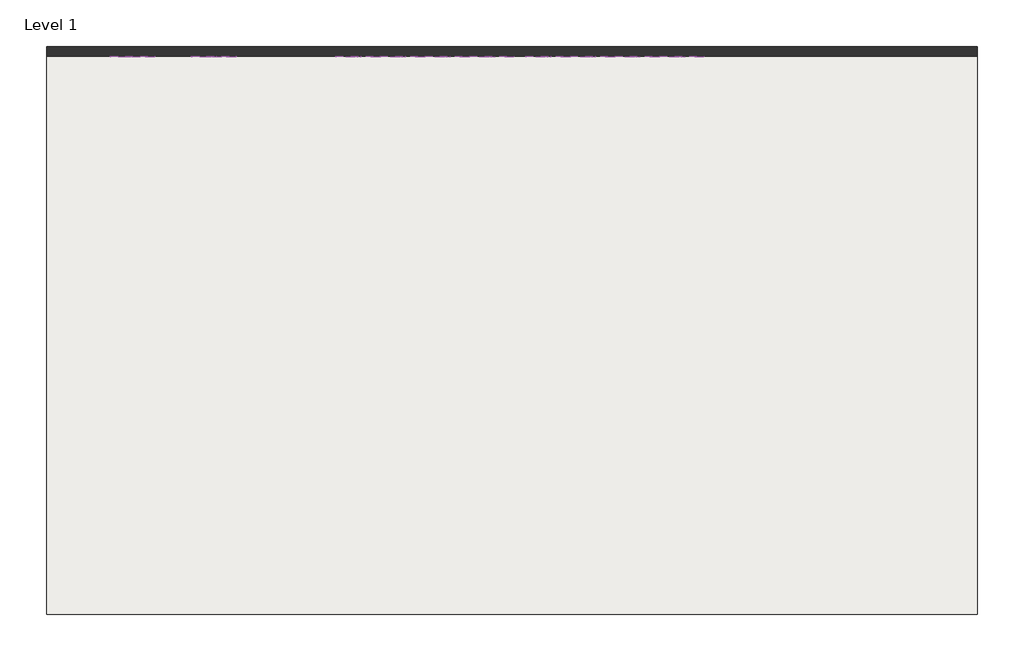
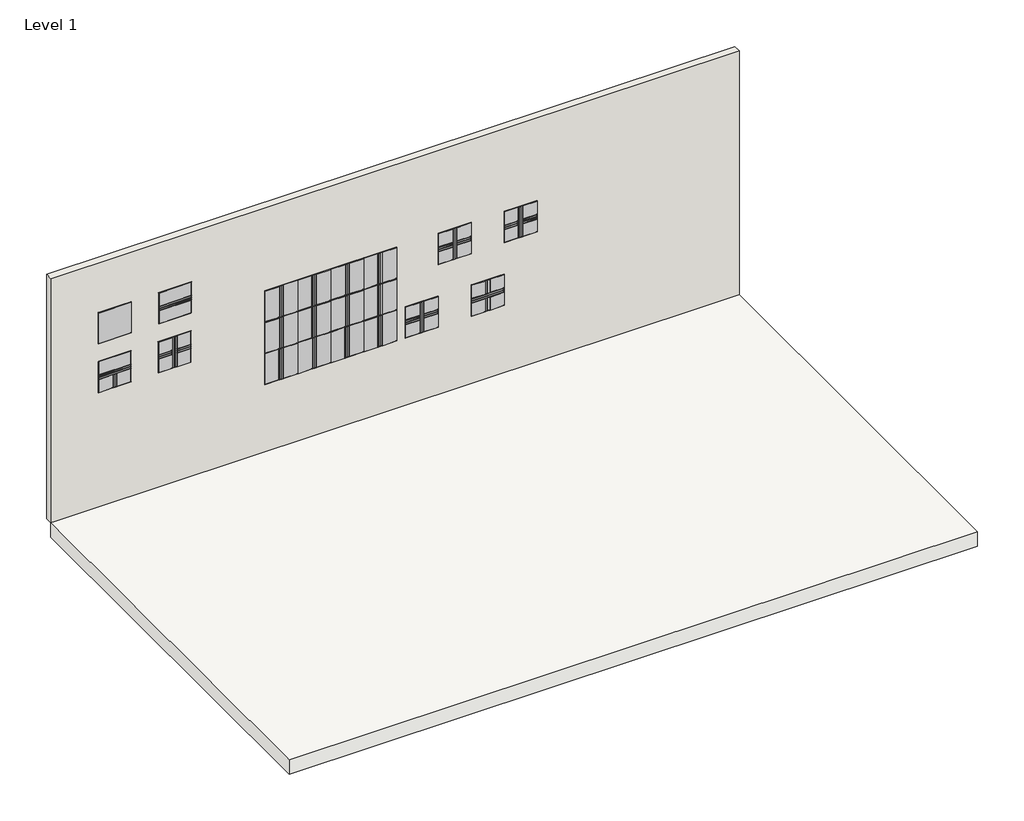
# One storey, incomplete: 20 proxies, 1 slab, 1 wall.
"""IFC4 building model written with IfcOpenShell, lengths in millimetres."""

import ifcopenshell
import ifcopenshell.guid

model = None  # the IFC model being written
_history = None  # IfcOwnerHistory: only IFC2X3 demands one
_inside = {}  # id of a spatial element -> (the spatial element, [elements in it])
_under = {}  # id of a project, library or spatial element -> (it, [spatial elements below it])
_declared = {}  # id of a project -> (the project, [libraries it declares])
_typed = {}  # id of a type object -> (the type object, [elements of that type])
_made_of = {}  # id of a material, layer set ... -> (it, [elements and type objects made of it])


def new_model(schema):
    """Start an empty IFC model of exactly this schema.

    Asked for "IFC4X3", IfcOpenShell would pick the latest addendum, in which some entities
    have other attributes; the version numbers below select the first issue.
    IFC2X3 requires an IfcOwnerHistory on every rooted entity: one is made here for all.
    """
    global model, _history
    if schema == "IFC4X3":
        model = ifcopenshell.file(schema_version=(4, 3, 0, 0))
    else:
        model = ifcopenshell.file(schema=schema)
    _inside.clear()
    _under.clear()
    _declared.clear()
    _typed.clear()
    _made_of.clear()
    _history = None
    if model.schema == "IFC2X3":
        org = make("IfcOrganization", Name="unknown")
        user = make(
            "IfcPersonAndOrganization",
            ThePerson=make("IfcPerson", FamilyName="unknown"),
            TheOrganization=org,
        )
        app = make(
            "IfcApplication",
            ApplicationDeveloper=org,
            Version="unknown",
            ApplicationFullName="unknown",
            ApplicationIdentifier="unknown",
        )
        _history = make(
            "IfcOwnerHistory",
            OwningUser=user,
            OwningApplication=app,
            ChangeAction="ADDED",
            CreationDate=0,
        )
    return model


def make(cls, **values):
    """One entity of the class cls with the attributes given. An attribute that is None is left unset."""
    return model.create_entity(
        cls, **{name: value for name, value in values.items() if value is not None}
    )


def rooted(cls, **values):
    """An entity with a GlobalId (a new one), such as an element, a storey or a relation."""
    return make(cls, GlobalId=ifcopenshell.guid.new(), OwnerHistory=_history, **values)


def si_unit(unit_type, name, prefix=None):
    """IfcSIUnit, for example si_unit("LENGTHUNIT", "METRE", prefix="MILLI")."""
    return make("IfcSIUnit", UnitType=unit_type, Prefix=prefix, Name=name)


def assignment(units):
    """IfcUnitAssignment: the units of a project."""
    return None if units is None else make("IfcUnitAssignment", Units=units)


def point(xyz):
    """IfcCartesianPoint."""
    return None if xyz is None else make("IfcCartesianPoint", Coordinates=xyz)


def direction(xyz):
    """IfcDirection."""
    return None if xyz is None else make("IfcDirection", DirectionRatios=xyz)


def frame(location, z_axis=None, x_axis=None):
    """IfcAxis2Placement3D, a coordinate frame: its origin and axes. An axis left out is left unset."""
    return make(
        "IfcAxis2Placement3D",
        Location=point(location),
        Axis=direction(z_axis),
        RefDirection=direction(x_axis),
    )


def origin():
    """The frame at (0, 0, 0) with its axes left unset."""
    return frame((0.0, 0.0, 0.0))


def origin_with_axes():
    """The frame at (0, 0, 0) with the z axis (0, 0, 1) and the x axis (1, 0, 0) written out."""
    return frame((0.0, 0.0, 0.0), z_axis=(0.0, 0.0, 1.0), x_axis=(1.0, 0.0, 0.0))


def place(relative_to, where):
    """IfcLocalPlacement: puts the frame where relative to a parent placement (None: the world)."""
    return make(
        "IfcLocalPlacement", PlacementRelTo=relative_to, RelativePlacement=where
    )


def context(
    kind, dimensions, precision=None, world=None, true_north=None, identifier=None
):
    """IfcGeometricRepresentationContext, for example the 3D "Model" context."""
    return make(
        "IfcGeometricRepresentationContext",
        ContextIdentifier=identifier,
        ContextType=kind,
        CoordinateSpaceDimension=dimensions,
        Precision=precision,
        WorldCoordinateSystem=world,
        TrueNorth=true_north,
    )


def project(units=None, contexts=None):
    """IfcProject with its units and contexts."""
    return rooted(
        "IfcProject",
        Name="project",
        RepresentationContexts=contexts,
        UnitsInContext=assignment(units),
    )


def spatial(cls, under=None, at=None, **own):
    """A site, building, storey or space (cls), placed at a placement, below another one or the project."""
    s = rooted(cls, ObjectPlacement=at, **own)
    if under is not None:
        _under.setdefault(under.id(), (under, []))[1].append(s)
    return s


def polyline(points):
    """IfcPolyline through the points."""
    return make("IfcPolyline", Points=[point(p) for p in points])


def outline(outer, holes=None, kind="AREA"):
    """IfcArbitraryClosedProfileDef: a profile drawn as a closed curve; with holes, ...WithVoids."""
    if holes is None:
        return make("IfcArbitraryClosedProfileDef", ProfileType=kind, OuterCurve=outer)
    return make(
        "IfcArbitraryProfileDefWithVoids",
        ProfileType=kind,
        OuterCurve=outer,
        InnerCurves=holes,
    )


def extrude(swept, where, along, depth):
    """IfcExtrudedAreaSolid: the profile swept, set in the frame where, extruded along a direction by depth."""
    return make(
        "IfcExtrudedAreaSolid",
        SweptArea=swept,
        Position=where,
        ExtrudedDirection=direction(along),
        Depth=depth,
    )


def faces_of(points, faces, orient=None, outer=None):
    """IfcFace entities. A face is a list of loops; a loop is a list of indices into points, from 0.

    orient and outer hold one flag for each loop. By default every Orientation is true, the
    first loop of a face is its IfcFaceOuterBound and the others are IfcFaceBound.
    """
    made = []
    for i, loops in enumerate(faces):
        bounds = []
        for j, loop in enumerate(loops):
            is_outer = j == 0 if outer is None else outer[i][j]
            bounds.append(
                make(
                    "IfcFaceOuterBound" if is_outer else "IfcFaceBound",
                    Bound=make("IfcPolyLoop", Polygon=[points[k] for k in loop]),
                    Orientation=True if orient is None else orient[i][j],
                )
            )
        made.append(make("IfcFace", Bounds=bounds))
    return made


def faceted_brep(points, faces, orient=None, outer=None, voids=None):
    """IfcFacetedBrep: a solid bounded by flat faces; with voids (closed shells), ...WithVoids."""
    shared = [point(p) for p in points]
    hull = make("IfcClosedShell", CfsFaces=faces_of(shared, faces, orient, outer))
    if voids is None:
        return make("IfcFacetedBrep", Outer=hull)
    return make(
        "IfcFacetedBrepWithVoids",
        Outer=hull,
        Voids=[
            make(cls, CfsFaces=faces_of(shared, fs, o, b)) for cls, fs, o, b in voids
        ],
    )


def shape(context_of_items, identifier, shape_type, items):
    """IfcShapeRepresentation: the items that make up one representation, for example the "Body"."""
    return make(
        "IfcShapeRepresentation",
        ContextOfItems=context_of_items,
        RepresentationIdentifier=identifier,
        RepresentationType=shape_type,
        Items=items,
    )


def source(mapping_origin, context_of_items, identifier, shape_type, items):
    """IfcRepresentationMap: a shape defined once, which mapped items show again and again."""
    return make(
        "IfcRepresentationMap",
        MappingOrigin=mapping_origin,
        MappedRepresentation=shape(context_of_items, identifier, shape_type, items),
    )


def transform(
    local_origin,
    x_axis=None,
    y_axis=None,
    z_axis=None,
    scale=None,
    scale2=None,
    scale3=None,
    uniform=True,
):
    """IfcCartesianTransformationOperator3D, or its non-uniform kind. x_axis, y_axis, z_axis: its Axis1, 2, 3."""
    if uniform:
        return make(
            "IfcCartesianTransformationOperator3D",
            Axis1=direction(x_axis),
            Axis2=direction(y_axis),
            LocalOrigin=point(local_origin),
            Scale=scale,
            Axis3=direction(z_axis),
        )
    return make(
        "IfcCartesianTransformationOperator3DnonUniform",
        Axis1=direction(x_axis),
        Axis2=direction(y_axis),
        LocalOrigin=point(local_origin),
        Scale=scale,
        Axis3=direction(z_axis),
        Scale2=scale2,
        Scale3=scale3,
    )


def mapped(mapping_source, mapping_target):
    """IfcMappedItem: shows the shape of a source again, moved by a transform."""
    return make(
        "IfcMappedItem", MappingSource=mapping_source, MappingTarget=mapping_target
    )


def made_of(thing, what):
    """Note that an element or type object is made of a material, layer set ...; save() writes the relation."""
    if what is not None:
        _made_of.setdefault(what.id(), (what, []))[1].append(thing)
    return thing


def element(
    cls,
    number,
    at=None,
    inside=None,
    cuts=None,
    type_object=None,
    material=None,
    context=None,
    identifier="Body",
    shape_type=None,
    held_by="IfcProductDefinitionShape",
    body=None,
    shapes=None,
    **own,
):
    """One element of the class cls, such as IfcWall. Its Tag is "e" and its number.

    at: its placement. inside: the storey or other place that contains it. cuts: it is an
    opening in that element (IfcRelVoidsElement). A single representation is given by context,
    identifier, shape_type and body (its items); several are given by shapes. held_by: the class
    of the entity that holds the representations. save() writes the other relations.
    """
    e = rooted(cls, Tag="e%d" % number, ObjectPlacement=at, **own)
    if body is not None:
        shapes = [shape(context, identifier, shape_type, body)]
    if shapes is not None:
        e.Representation = make(held_by, Representations=shapes)
    if inside is not None:
        _inside.setdefault(inside.id(), (inside, []))[1].append(e)
    if cuts is not None:
        rooted(
            "IfcRelVoidsElement", RelatingBuildingElement=cuts, RelatedOpeningElement=e
        )
    if type_object is not None:
        _typed.setdefault(type_object.id(), (type_object, []))[1].append(e)
    return made_of(e, material)


def aggregate(whole, parts):
    """IfcRelAggregates: a whole, such as a stair, and the parts it consists of."""
    return rooted("IfcRelAggregates", RelatingObject=whole, RelatedObjects=parts)


def save(model, path):
    """Write the relations noted so far, then the file.

    IfcRelAggregates (storeys below a building ...), IfcRelContainedInSpatialStructure (elements
    in a storey), IfcRelDefinesByType, IfcRelAssociatesMaterial and IfcRelDeclares: one each for
    every whole, place, type object, material and project.
    """
    for whole, parts in _under.values():
        aggregate(whole, parts)
    for where, things in _inside.values():
        rooted(
            "IfcRelContainedInSpatialStructure",
            RelatedElements=things,
            RelatingStructure=where,
        )
    for kind, things in _typed.values():
        rooted("IfcRelDefinesByType", RelatedObjects=things, RelatingType=kind)
    for what, things in _made_of.values():
        rooted("IfcRelAssociatesMaterial", RelatedObjects=things, RelatingMaterial=what)
    for by, libraries in _declared.values():
        rooted("IfcRelDeclares", RelatingContext=by, RelatedDefinitions=libraries)
    model.write(path)


def specialty_equipment_276b5d11(model_context):
    return source(origin(), model_context, "Body", "Brep", [
        faceted_brep([(-30.9054687, 44.0630399, 12.0054687), (-30.9054687, 286.5945312, 12.0054687), (-268.3890625, 286.5945312, 12.0054687), (-268.3890625, 44.0630399, 12.0054687), (-30.9054687, 5.9630399, 12.0054687), (-30.9054687, 33.0521024, 12.0054687), (-604.0945312, 33.0521024, 12.0054687), (-604.0945312, 5.9630399, 12.0054687), (-30.9054687, -286.5945313, 12.0054687), (-30.9054687, -43.1478976, 12.0054687), (-268.3890625, -43.1478976, 12.0054687), (-268.3890625, -286.5945313, 12.0054687), (-30.9054687, -32.1369601, 12.0054687), (-30.9054687, -5.0478976, 12.0054687), (-604.0945312, -5.0478976, 12.0054687), (-604.0945312, -32.1369601, 12.0054687), (-604.0945312, 286.5945312, 12.0054687), (-604.0945312, 44.0630399, 12.0054687), (-355.6, 44.0630399, 12.0054687), (-355.6, 286.5945312, 12.0054687), (-604.0945312, -43.1478976, 12.0054687), (-604.0945312, -286.5945313, 12.0054687), (-355.6, -286.5945313, 12.0054687), (-355.6, -43.1478976, 12.0054687), (-279.4, 286.5945312, 12.0054687), (-306.4890625, 286.5945312, 12.0054687), (-306.4890625, 44.0630399, 12.0054687), (-279.4, 44.0630399, 12.0054687), (-317.5, 286.5945312, 12.0054687), (-344.5890625, 286.5945312, 12.0054687), (-344.5890625, 44.0630399, 12.0054687), (-317.5, 44.0630399, 12.0054687), (-306.4890625, -286.5945313, 12.0054687), (-279.4, -286.5945313, 12.0054687), (-279.4, -43.1478976, 12.0054687), (-306.4890625, -43.1478976, 12.0054687), (-344.5890625, -286.5945313, 12.0054687), (-317.5, -286.5945313, 12.0054687), (-317.5, -43.1478976, 12.0054687), (-344.5890625, -43.1478976, 12.0054687), (-25.4, 292.1, 0.0), (-25.4, -292.1, 0.0), (-609.6, -292.1, 0.0), (-609.6, 292.1, 0.0), (-609.6, 292.1, 6.5), (-350.0945313, 292.1, 6.5), (-311.9945313, 292.1, 6.5), (-273.8945313, 292.1, 6.5), (-25.4, 292.1, 6.5), (-609.6, -292.1, 6.5), (-609.6, -37.6424289, 6.5), (-609.6, 0.4575711, 6.5), (-609.6, 38.5575711, 6.5), (-25.4, -292.1, 6.5), (-273.8945313, -292.1, 6.5), (-311.9945312, -292.1, 6.5), (-350.0945312, -292.1, 6.5), (-25.4, 38.5575711, 6.5), (-25.4, 0.4575711, 6.5), (-25.4, -37.6424289, 6.5), (-273.8945313, 44.0630399, 6.5), (-311.9945313, 44.0630399, 6.5), (-350.0945313, 44.0630399, 6.5), (-273.8945313, -43.1478976, 6.5), (-311.9945313, -43.1478976, 6.5), (-350.0945313, -43.1478976, 6.5)], [[[0, 1, 2, 3]], [[4, 5, 6, 7]], [[8, 9, 10, 11]], [[12, 13, 14, 15]], [[16, 17, 18, 19]], [[20, 21, 22, 23]], [[24, 25, 26, 27]], [[28, 29, 30, 31]], [[32, 33, 34, 35]], [[36, 37, 38, 39]], [[40, 41, 42, 43]], [[40, 43, 44, 45, 46, 47, 48]], [[43, 42, 49, 50, 51, 52, 44]], [[42, 41, 53, 54, 55, 56, 49]], [[41, 40, 48, 57, 58, 59, 53]], [[5, 4, 58, 57]], [[13, 12, 59, 58]], [[48, 1, 0, 57]], [[8, 53, 59, 9]], [[25, 24, 47, 46]], [[29, 28, 46, 45]], [[1, 48, 47, 2]], [[44, 16, 19, 45]], [[7, 6, 52, 51]], [[15, 14, 51, 50]], [[16, 44, 52, 17]], [[49, 21, 20, 50]], [[33, 32, 55, 54]], [[37, 36, 56, 55]], [[53, 8, 11, 54]], [[21, 49, 56, 22]], [[57, 52, 6, 5]], [[52, 57, 0, 3, 27, 26, 31, 30, 18, 17]], [[58, 51, 14, 13]], [[51, 58, 4, 7]], [[59, 50, 20, 23, 39, 38, 35, 34, 10, 9]], [[50, 59, 12, 15]], [[27, 60, 47, 24]], [[60, 3, 2, 47]], [[31, 61, 46, 28]], [[61, 26, 25, 46]], [[18, 62, 45, 19]], [[62, 30, 29, 45]], [[60, 27, 3]], [[61, 31, 26]], [[62, 18, 30]], [[63, 34, 33, 54]], [[10, 63, 54, 11]], [[64, 38, 37, 55]], [[35, 64, 55, 32]], [[65, 23, 22, 56]], [[39, 65, 56, 36]], [[34, 63, 10]], [[38, 64, 35]], [[23, 65, 39]]]),
    ])


def specialty_equipment_d335329e(model_context):
    return source(origin(), model_context, "Body", "Brep", [
        faceted_brep([(-30.9054687, -44.0630399, 12.0054687), (-268.3890625, -44.0630399, 12.0054687), (-268.3890625, -286.5945312, 12.0054687), (-30.9054687, -286.5945312, 12.0054687), (-30.9054687, -5.9630399, 12.0054687), (-604.0945312, -5.9630399, 12.0054687), (-604.0945312, -33.0521024, 12.0054687), (-30.9054687, -33.0521024, 12.0054687), (-30.9054687, 286.5945313, 12.0054687), (-268.3890625, 286.5945313, 12.0054687), (-268.3890625, 43.1478976, 12.0054687), (-30.9054687, 43.1478976, 12.0054687), (-30.9054687, 32.1369601, 12.0054687), (-604.0945312, 32.1369601, 12.0054687), (-604.0945312, 5.0478976, 12.0054687), (-30.9054687, 5.0478976, 12.0054687), (-604.0945312, -286.5945312, 12.0054687), (-355.6, -286.5945312, 12.0054687), (-355.6, -44.0630399, 12.0054687), (-604.0945312, -44.0630399, 12.0054687), (-604.0945312, 43.1478976, 12.0054687), (-355.6, 43.1478976, 12.0054687), (-355.6, 286.5945313, 12.0054687), (-604.0945312, 286.5945313, 12.0054687), (-279.4, -286.5945312, 12.0054687), (-279.4, -44.0630399, 12.0054687), (-306.4890625, -44.0630399, 12.0054687), (-306.4890625, -286.5945312, 12.0054687), (-317.5, -286.5945312, 12.0054687), (-317.5, -44.0630399, 12.0054687), (-344.5890625, -44.0630399, 12.0054687), (-344.5890625, -286.5945312, 12.0054687), (-306.4890625, 286.5945313, 12.0054687), (-306.4890625, 43.1478976, 12.0054687), (-279.4, 43.1478976, 12.0054687), (-279.4, 286.5945313, 12.0054687), (-344.5890625, 286.5945313, 12.0054687), (-344.5890625, 43.1478976, 12.0054687), (-317.5, 43.1478976, 12.0054687), (-317.5, 286.5945313, 12.0054687), (-25.4, -292.1, 0.0), (-609.6, -292.1, 0.0), (-609.6, 292.1, 0.0), (-25.4, 292.1, 0.0), (-25.4, -292.1, 6.5), (-273.8945313, -292.1, 6.5), (-311.9945313, -292.1, 6.5), (-350.0945313, -292.1, 6.5), (-609.6, -292.1, 6.5), (-609.6, -38.5575711, 6.5), (-609.6, -0.4575711, 6.5), (-609.6, 37.6424289, 6.5), (-609.6, 292.1, 6.5), (-350.0945312, 292.1, 6.5), (-311.9945312, 292.1, 6.5), (-273.8945313, 292.1, 6.5), (-25.4, 292.1, 6.5), (-25.4, 37.6424289, 6.5), (-25.4, -0.4575711, 6.5), (-25.4, -38.5575711, 6.5), (-273.8945313, -44.0630399, 6.5), (-311.9945313, -44.0630399, 6.5), (-350.0945313, -44.0630399, 6.5), (-273.8945313, 43.1478976, 6.5), (-311.9945313, 43.1478976, 6.5), (-350.0945313, 43.1478976, 6.5)], [[[0, 1, 2, 3]], [[4, 5, 6, 7]], [[8, 9, 10, 11]], [[12, 13, 14, 15]], [[16, 17, 18, 19]], [[20, 21, 22, 23]], [[24, 25, 26, 27]], [[28, 29, 30, 31]], [[32, 33, 34, 35]], [[36, 37, 38, 39]], [[40, 41, 42, 43]], [[40, 44, 45, 46, 47, 48, 41]], [[41, 48, 49, 50, 51, 52, 42]], [[42, 52, 53, 54, 55, 56, 43]], [[43, 56, 57, 58, 59, 44, 40]], [[8, 11, 57, 56]], [[44, 59, 0, 3]], [[7, 59, 58, 4]], [[15, 58, 57, 12]], [[3, 2, 45, 44]], [[48, 47, 17, 16]], [[27, 46, 45, 24]], [[31, 47, 46, 28]], [[16, 19, 49, 48]], [[52, 51, 20, 23]], [[5, 50, 49, 6]], [[13, 51, 50, 14]], [[23, 22, 53, 52]], [[56, 55, 9, 8]], [[35, 55, 54, 32]], [[39, 54, 53, 36]], [[59, 7, 6, 49]], [[49, 19, 18, 30, 29, 26, 25, 1, 0, 59]], [[58, 15, 14, 50]], [[50, 5, 4, 58]], [[57, 11, 10, 34, 33, 38, 37, 21, 20, 51]], [[51, 13, 12, 57]], [[25, 24, 45, 60]], [[60, 45, 2, 1]], [[29, 28, 46, 61]], [[61, 46, 27, 26]], [[18, 17, 47, 62]], [[62, 47, 31, 30]], [[60, 1, 25]], [[61, 26, 29]], [[62, 30, 18]], [[63, 55, 35, 34]], [[10, 9, 55, 63]], [[64, 54, 39, 38]], [[33, 32, 54, 64]], [[65, 53, 22, 21]], [[37, 36, 53, 65]], [[21, 37, 65]], [[38, 33, 64]], [[34, 10, 63]]]),
    ])


def plane_tile_17eb35c2(model_context):
    return source(origin(), model_context, "Body", "Brep", [
        faceted_brep([(-30.9054687, -286.5945313, 12.0054687), (-30.9054687, 286.5945312, 12.0054687), (-604.0945312, 286.5945312, 12.0054687), (-604.0945312, -286.5945313, 12.0054687), (-25.4, 292.1, 0.0), (-25.4, -292.1, 0.0), (-609.6, -292.1, 0.0), (-609.6, 292.1, 0.0), (-609.6, 292.1, 6.5), (-25.4, 292.1, 6.5), (-609.6, -292.1, 6.5), (-25.4, -292.1, 6.5)], [[[0, 1, 2, 3]], [[4, 5, 6, 7]], [[4, 7, 8, 9]], [[7, 6, 10, 8]], [[6, 5, 11, 10]], [[5, 4, 9, 11]], [[9, 1, 0, 11]], [[1, 9, 8, 2]], [[2, 8, 10, 3]], [[11, 0, 3, 10]]]),
    ])


def straight_tile_4edfceb1(model_context):
    return source(origin(), model_context, "Body", "Brep", [
        faceted_brep([(-30.9054687, 286.5945312, 12.0054687), (-604.0945312, 286.5945312, 12.0054687), (-604.0945312, 44.0630399, 12.0054687), (-30.9054687, 44.0630399, 12.0054687), (-604.0945312, -286.5945313, 12.0054687), (-30.9054687, -286.5945313, 12.0054687), (-30.9054687, -43.1478976, 12.0054687), (-604.0945312, -43.1478976, 12.0054687), (-30.9054687, 5.9630399, 12.0054687), (-30.9054687, 33.0521024, 12.0054687), (-604.0945312, 33.0521024, 12.0054687), (-604.0945312, 5.9630399, 12.0054687), (-30.9054687, -32.1369601, 12.0054687), (-30.9054687, -5.0478976, 12.0054687), (-604.0945312, -5.0478976, 12.0054687), (-604.0945312, -32.1369601, 12.0054687), (-25.4, 292.1, 0.0), (-25.4, -292.1, 0.0), (-609.6, -292.1, 0.0), (-609.6, 292.1, 0.0), (-609.6, 292.1, 6.5), (-25.4, 292.1, 6.5), (-609.6, -292.1, 6.5), (-609.6, -37.6424289, 6.5), (-609.6, 0.4575711, 6.5), (-609.6, 38.5575711, 6.5), (-25.4, -292.1, 6.5), (-25.4, 38.5575711, 6.5), (-25.4, 0.4575711, 6.5), (-25.4, -37.6424289, 6.5)], [[[0, 1, 2, 3]], [[4, 5, 6, 7]], [[8, 9, 10, 11]], [[12, 13, 14, 15]], [[16, 17, 18, 19]], [[16, 19, 20, 21]], [[19, 18, 22, 23, 24, 25, 20]], [[18, 17, 26, 22]], [[17, 16, 21, 27, 28, 29, 26]], [[9, 8, 28, 27]], [[13, 12, 29, 28]], [[21, 0, 3, 27]], [[5, 26, 29, 6]], [[0, 21, 20, 1]], [[11, 10, 25, 24]], [[15, 14, 24, 23]], [[1, 20, 25, 2]], [[22, 4, 7, 23]], [[26, 5, 4, 22]], [[27, 25, 10, 9]], [[25, 27, 3, 2]], [[28, 24, 14, 13]], [[24, 28, 8, 11]], [[29, 23, 7, 6]], [[23, 29, 12, 15]]]),
    ])


def straight_tile_5723f8c6(model_context):
    return source(origin(), model_context, "Body", "Brep", [
        faceted_brep([(-30.9054687, -286.5945312, 12.0054687), (-30.9054687, -44.0630399, 12.0054687), (-604.0945312, -44.0630399, 12.0054687), (-604.0945312, -286.5945312, 12.0054687), (-604.0945312, 286.5945313, 12.0054687), (-604.0945312, 43.1478976, 12.0054687), (-30.9054687, 43.1478976, 12.0054687), (-30.9054687, 286.5945313, 12.0054687), (-30.9054687, -5.9630399, 12.0054687), (-604.0945312, -5.9630399, 12.0054687), (-604.0945312, -33.0521024, 12.0054687), (-30.9054687, -33.0521024, 12.0054687), (-30.9054687, 32.1369601, 12.0054687), (-604.0945312, 32.1369601, 12.0054687), (-604.0945312, 5.0478976, 12.0054687), (-30.9054687, 5.0478976, 12.0054687), (-25.4, -292.1, 0.0), (-609.6, -292.1, 0.0), (-609.6, 292.1, 0.0), (-25.4, 292.1, 0.0), (-25.4, -292.1, 6.5), (-609.6, -292.1, 6.5), (-609.6, -38.5575711, 6.5), (-609.6, -0.4575711, 6.5), (-609.6, 37.6424289, 6.5), (-609.6, 292.1, 6.5), (-25.4, 292.1, 6.5), (-25.4, 37.6424289, 6.5), (-25.4, -0.4575711, 6.5), (-25.4, -38.5575711, 6.5)], [[[0, 1, 2, 3]], [[4, 5, 6, 7]], [[8, 9, 10, 11]], [[12, 13, 14, 15]], [[16, 17, 18, 19]], [[16, 20, 21, 17]], [[17, 21, 22, 23, 24, 25, 18]], [[18, 25, 26, 19]], [[19, 26, 27, 28, 29, 20, 16]], [[7, 6, 27, 26]], [[20, 29, 1, 0]], [[11, 29, 28, 8]], [[15, 28, 27, 12]], [[0, 3, 21, 20]], [[3, 2, 22, 21]], [[25, 24, 5, 4]], [[9, 23, 22, 10]], [[13, 24, 23, 14]], [[26, 25, 4, 7]], [[29, 11, 10, 22]], [[22, 2, 1, 29]], [[28, 15, 14, 23]], [[23, 9, 8, 28]], [[27, 6, 5, 24]], [[24, 13, 12, 27]]]),
    ])


def tee_tile_2c00e154(model_context):
    return source(origin(), model_context, "Body", "Brep", [
        faceted_brep([(-30.9054687, 286.5945312, 12.0054687), (-604.0945312, 286.5945312, 12.0054687), (-604.0945312, 44.0630399, 12.0054687), (-30.9054687, 44.0630399, 12.0054687), (-30.9054687, 5.9630399, 12.0054687), (-30.9054687, 33.0521024, 12.0054687), (-604.0945312, 33.0521024, 12.0054687), (-604.0945312, 5.9630399, 12.0054687), (-30.9054687, -286.5945313, 12.0054687), (-30.9054687, -43.1478976, 12.0054687), (-268.3890625, -43.1478976, 12.0054687), (-268.3890625, -286.5945313, 12.0054687), (-30.9054687, -32.1369601, 12.0054687), (-30.9054687, -5.0478976, 12.0054687), (-604.0945312, -5.0478976, 12.0054687), (-604.0945312, -32.1369601, 12.0054687), (-604.0945312, -43.1478976, 12.0054687), (-604.0945312, -286.5945313, 12.0054687), (-355.6, -286.5945313, 12.0054687), (-355.6, -43.1478976, 12.0054687), (-306.4890625, -286.5945313, 12.0054687), (-279.4, -286.5945313, 12.0054687), (-279.4, -43.1478976, 12.0054687), (-306.4890625, -43.1478976, 12.0054687), (-344.5890625, -286.5945313, 12.0054687), (-317.5, -286.5945313, 12.0054687), (-317.5, -43.1478976, 12.0054687), (-344.5890625, -43.1478976, 12.0054687), (-25.4, 292.1, 0.0), (-25.4, -292.1, 0.0), (-609.6, -292.1, 0.0), (-609.6, 292.1, 0.0), (-609.6, 292.1, 6.5), (-25.4, 292.1, 6.5), (-609.6, -292.1, 6.5), (-609.6, -37.6424289, 6.5), (-609.6, 0.4575711, 6.5), (-609.6, 38.5575711, 6.5), (-25.4, -292.1, 6.5), (-273.8945313, -292.1, 6.5), (-311.9945312, -292.1, 6.5), (-350.0945312, -292.1, 6.5), (-25.4, 38.5575711, 6.5), (-25.4, 0.4575711, 6.5), (-25.4, -37.6424289, 6.5), (-273.8945313, -43.1478976, 6.5), (-311.9945313, -43.1478976, 6.5), (-350.0945313, -43.1478976, 6.5)], [[[0, 1, 2, 3]], [[4, 5, 6, 7]], [[8, 9, 10, 11]], [[12, 13, 14, 15]], [[16, 17, 18, 19]], [[20, 21, 22, 23]], [[24, 25, 26, 27]], [[28, 29, 30, 31]], [[28, 31, 32, 33]], [[31, 30, 34, 35, 36, 37, 32]], [[30, 29, 38, 39, 40, 41, 34]], [[29, 28, 33, 42, 43, 44, 38]], [[5, 4, 43, 42]], [[13, 12, 44, 43]], [[33, 0, 3, 42]], [[8, 38, 44, 9]], [[0, 33, 32, 1]], [[7, 6, 37, 36]], [[15, 14, 36, 35]], [[1, 32, 37, 2]], [[34, 17, 16, 35]], [[21, 20, 40, 39]], [[25, 24, 41, 40]], [[38, 8, 11, 39]], [[17, 34, 41, 18]], [[42, 37, 6, 5]], [[37, 42, 3, 2]], [[43, 36, 14, 13]], [[36, 43, 4, 7]], [[44, 35, 16, 19, 27, 26, 23, 22, 10, 9]], [[35, 44, 12, 15]], [[22, 45, 10]], [[26, 46, 23]], [[19, 47, 27]], [[45, 22, 21, 39]], [[10, 45, 39, 11]], [[46, 26, 25, 40]], [[23, 46, 40, 20]], [[47, 19, 18, 41]], [[27, 47, 41, 24]]]),
    ])


model = new_model("IFC4")

# Units and contexts
model_context = context("Model", 3, world=origin())
ifc_project = project(units=[si_unit("LENGTHUNIT", "METRE", prefix="MILLI")], contexts=[model_context])

# Site, building, storey
site = spatial("IfcSite", under=ifc_project)
building = spatial("IfcBuilding", under=site)
storey = spatial("IfcBuildingStorey", under=building, Name="Level 1", Elevation=0.0)

# Proxies
placement = place(None, origin())
specialty_equipment_shape = specialty_equipment_276b5d11(model_context)
element("IfcBuildingElementProxy", 1, Name="Wall-Panel-Kirei-EchoPanel-Echotile-Racetrack : Instersection Tile", ObjectType="Wall-Panel-Kirei-EchoPanel-Echotile-Racetrack : Instersection Tile", at=placement, inside=storey, context=model_context, shape_type="MappedRepresentation", body=[
    mapped(specialty_equipment_shape, transform((-4123.2949822, 6040.5236992, 1872.5765728), x_axis=(0.0, 0.0, 1.0), y_axis=(-1.0, 0.0, 0.0), z_axis=(0.0, -1.0, 0.0))),
])
element("IfcBuildingElementProxy", 2, Name="Wall-Panel-Kirei-EchoPanel-Echotile-Racetrack : Instersection Tile", ObjectType="Wall-Panel-Kirei-EchoPanel-Echotile-Racetrack : Instersection Tile", at=placement, inside=storey, context=model_context, shape_type="MappedRepresentation", body=[
    mapped(specialty_equipment_shape, transform((-3272.3949822, 6040.5236992, 1555.0765728), x_axis=(-1.0, 0.0, 0.0), y_axis=(0.0, 0.0, -1.0), z_axis=(0.0, -1.0, 0.0))),
])
specialty_equipment_2_shape = specialty_equipment_d335329e(model_context)
element("IfcBuildingElementProxy", 3, Name="Wall-Panel-Kirei-EchoPanel-Echotile-Racetrack : Instersection Tile", ObjectType="Wall-Panel-Kirei-EchoPanel-Echotile-Racetrack : Instersection Tile", at=placement, inside=storey, context=model_context, shape_type="MappedRepresentation", body=[
    mapped(specialty_equipment_2_shape, transform((-3539.0949822, 6040.5236992, 2411.4820415), x_axis=(0.0, 0.0, -1.0), y_axis=(1.0, 0.0, 0.0), z_axis=(0.0, -1.0, 0.0))),
])
element("IfcBuildingElementProxy", 4, Name="Wall-Panel-Kirei-EchoPanel-Echotile-Racetrack : Instersection Tile", ObjectType="Wall-Panel-Kirei-EchoPanel-Echotile-Racetrack : Instersection Tile", at=placement, inside=storey, context=model_context, shape_type="MappedRepresentation", body=[
    mapped(specialty_equipment_2_shape, transform((-2370.6949822, 6040.5236992, 2411.4820415), x_axis=(0.0, 0.0, -1.0), y_axis=(1.0, 0.0, 0.0), z_axis=(0.0, -1.0, 0.0))),
])
element("IfcBuildingElementProxy", 5, Name="Wall-Panel-Kirei-EchoPanel-Echotile-Racetrack : Instersection Tile", ObjectType="Wall-Panel-Kirei-EchoPanel-Echotile-Racetrack : Instersection Tile", at=placement, inside=storey, context=model_context, shape_type="MappedRepresentation", body=[
    mapped(specialty_equipment_shape, transform((-8503.6236533, 6040.5236992, 2754.3820415), x_axis=(0.0, 0.0, 1.0), y_axis=(-1.0, 0.0, 0.0), z_axis=(0.0, -1.0, 0.0))),
])
plane_tile_shape = plane_tile_17eb35c2(model_context)
element("IfcBuildingElementProxy", 6, Name="Wall-Panel-Kirei-EchoPanel-Echotile-Racetrack : Plane Tile", ObjectType="Wall-Panel-Kirei-EchoPanel-Echotile-Racetrack : Plane Tile", at=placement, inside=storey, context=model_context, shape_type="MappedRepresentation", body=[
    mapped(plane_tile_shape, transform((-9561.4131702, 6040.5236992, 3669.1548547), x_axis=(0.0, 0.0, 1.0), y_axis=(-1.0, 0.0, 0.0), z_axis=(0.0, -1.0, 0.0))),
])
straight_tile_shape = straight_tile_4edfceb1(model_context)
element("IfcBuildingElementProxy", 7, Name="Wall-Panel-Kirei-EchoPanel-Echotile-Racetrack : Straight Tile", ObjectType="Wall-Panel-Kirei-EchoPanel-Echotile-Racetrack : Straight Tile", at=placement, inside=storey, context=model_context, shape_type="MappedRepresentation", body=[
    mapped(straight_tile_shape, transform((-6612.4949822, 6040.5236992, 1872.5765728), x_axis=(0.0, 0.0, 1.0), y_axis=(-1.0, 0.0, 0.0), z_axis=(0.0, -1.0, 0.0))),
])
element("IfcBuildingElementProxy", 8, Name="Wall-Panel-Kirei-EchoPanel-Echotile-Racetrack : Straight Tile", ObjectType="Wall-Panel-Kirei-EchoPanel-Echotile-Racetrack : Straight Tile", at=placement, inside=storey, context=model_context, shape_type="MappedRepresentation", body=[
    mapped(straight_tile_shape, transform((-6612.4949822, 6040.5236992, 1821.7765728), x_axis=(0.0, 0.0, -1.0), y_axis=(1.0, 0.0, 0.0), z_axis=(0.0, -1.0, 0.0))),
])
element("IfcBuildingElementProxy", 9, Name="Wall-Panel-Kirei-EchoPanel-Echotile-Racetrack : Straight Tile", ObjectType="Wall-Panel-Kirei-EchoPanel-Echotile-Racetrack : Straight Tile", at=placement, inside=storey, context=model_context, shape_type="MappedRepresentation", body=[
    mapped(straight_tile_shape, transform((-6612.4949822, 6040.5236992, 2411.4820415), x_axis=(0.0, 0.0, -1.0), y_axis=(1.0, 0.0, 0.0), z_axis=(0.0, -1.0, 0.0))),
])
element("IfcBuildingElementProxy", 10, Name="Wall-Panel-Kirei-EchoPanel-Echotile-Racetrack : Straight Tile", ObjectType="Wall-Panel-Kirei-EchoPanel-Echotile-Racetrack : Straight Tile", at=placement, inside=storey, context=model_context, shape_type="MappedRepresentation", body=[
    mapped(straight_tile_shape, transform((-5444.0949822, 6040.5236992, 1872.5765728), x_axis=(0.0, 0.0, 1.0), y_axis=(-1.0, 0.0, 0.0), z_axis=(0.0, -1.0, 0.0))),
])
element("IfcBuildingElementProxy", 11, Name="Wall-Panel-Kirei-EchoPanel-Echotile-Racetrack : Straight Tile", ObjectType="Wall-Panel-Kirei-EchoPanel-Echotile-Racetrack : Straight Tile", at=placement, inside=storey, context=model_context, shape_type="MappedRepresentation", body=[
    mapped(straight_tile_shape, transform((-5444.0949822, 6040.5236992, 1821.7765728), x_axis=(0.0, 0.0, -1.0), y_axis=(1.0, 0.0, 0.0), z_axis=(0.0, -1.0, 0.0))),
])
element("IfcBuildingElementProxy", 12, Name="Wall-Panel-Kirei-EchoPanel-Echotile-Racetrack : Straight Tile", ObjectType="Wall-Panel-Kirei-EchoPanel-Echotile-Racetrack : Straight Tile", at=placement, inside=storey, context=model_context, shape_type="MappedRepresentation", body=[
    mapped(straight_tile_shape, transform((-5444.0949822, 6040.5236992, 2411.4820415), x_axis=(0.0, 0.0, -1.0), y_axis=(1.0, 0.0, 0.0), z_axis=(0.0, -1.0, 0.0))),
])
straight_tile_2_shape = straight_tile_5723f8c6(model_context)
element("IfcBuildingElementProxy", 13, Name="Wall-Panel-Kirei-EchoPanel-Echotile-Racetrack : Straight Tile", ObjectType="Wall-Panel-Kirei-EchoPanel-Echotile-Racetrack : Straight Tile", at=placement, inside=storey, context=model_context, shape_type="MappedRepresentation", body=[
    mapped(straight_tile_2_shape, transform((-6028.2949822, 6040.5236992, 1872.5765728), x_axis=(0.0, 0.0, 1.0), y_axis=(-1.0, 0.0, 0.0), z_axis=(0.0, -1.0, 0.0))),
])
element("IfcBuildingElementProxy", 14, Name="Wall-Panel-Kirei-EchoPanel-Echotile-Racetrack : Straight Tile", ObjectType="Wall-Panel-Kirei-EchoPanel-Echotile-Racetrack : Straight Tile", at=placement, inside=storey, context=model_context, shape_type="MappedRepresentation", body=[
    mapped(straight_tile_2_shape, transform((-6028.2949822, 6040.5236992, 1821.7765728), x_axis=(0.0, 0.0, -1.0), y_axis=(1.0, 0.0, 0.0), z_axis=(0.0, -1.0, 0.0))),
])
element("IfcBuildingElementProxy", 15, Name="Wall-Panel-Kirei-EchoPanel-Echotile-Racetrack : Straight Tile", ObjectType="Wall-Panel-Kirei-EchoPanel-Echotile-Racetrack : Straight Tile", at=placement, inside=storey, context=model_context, shape_type="MappedRepresentation", body=[
    mapped(straight_tile_2_shape, transform((-6028.2949822, 6040.5236992, 2411.4820415), x_axis=(0.0, 0.0, -1.0), y_axis=(1.0, 0.0, 0.0), z_axis=(0.0, -1.0, 0.0))),
])
element("IfcBuildingElementProxy", 16, Name="Wall-Panel-Kirei-EchoPanel-Echotile-Racetrack : Straight Tile", ObjectType="Wall-Panel-Kirei-EchoPanel-Echotile-Racetrack : Straight Tile", at=placement, inside=storey, context=model_context, shape_type="MappedRepresentation", body=[
    mapped(straight_tile_2_shape, transform((-4859.8949822, 6040.5236992, 1872.5765728), x_axis=(0.0, 0.0, 1.0), y_axis=(-1.0, 0.0, 0.0), z_axis=(0.0, -1.0, 0.0))),
])
element("IfcBuildingElementProxy", 17, Name="Wall-Panel-Kirei-EchoPanel-Echotile-Racetrack : Straight Tile", ObjectType="Wall-Panel-Kirei-EchoPanel-Echotile-Racetrack : Straight Tile", at=placement, inside=storey, context=model_context, shape_type="MappedRepresentation", body=[
    mapped(straight_tile_2_shape, transform((-4859.8949822, 6040.5236992, 1821.7765728), x_axis=(0.0, 0.0, -1.0), y_axis=(1.0, 0.0, 0.0), z_axis=(0.0, -1.0, 0.0))),
])
element("IfcBuildingElementProxy", 18, Name="Wall-Panel-Kirei-EchoPanel-Echotile-Racetrack : Straight Tile", ObjectType="Wall-Panel-Kirei-EchoPanel-Echotile-Racetrack : Straight Tile", at=placement, inside=storey, context=model_context, shape_type="MappedRepresentation", body=[
    mapped(straight_tile_2_shape, transform((-4859.8949822, 6040.5236992, 2411.4820415), x_axis=(0.0, 0.0, -1.0), y_axis=(1.0, 0.0, 0.0), z_axis=(0.0, -1.0, 0.0))),
])
element("IfcBuildingElementProxy", 19, Name="Wall-Panel-Kirei-EchoPanel-Echotile-Racetrack : Straight Tile", ObjectType="Wall-Panel-Kirei-EchoPanel-Echotile-Racetrack : Straight Tile", at=placement, inside=storey, context=model_context, shape_type="MappedRepresentation", body=[
    mapped(straight_tile_shape, transform((-8812.1131702, 6040.5236992, 3351.6548547), x_axis=(-1.0, 0.0, 0.0), y_axis=(0.0, 0.0, -1.0), z_axis=(0.0, -1.0, 0.0))),
])
tee_tile_shape = tee_tile_2c00e154(model_context)
element("IfcBuildingElementProxy", 20, Name="Wall-Panel-Kirei-EchoPanel-Echotile-Racetrack : Tee Tile", ObjectType="Wall-Panel-Kirei-EchoPanel-Echotile-Racetrack : Tee Tile", at=placement, inside=storey, context=model_context, shape_type="MappedRepresentation", body=[
    mapped(tee_tile_shape, transform((-9249.055478, 6040.5236992, 2436.8820415), x_axis=(1.0, 0.0, 0.0), y_axis=(0.0, 0.0, 1.0), z_axis=(0.0, -1.0, 0.0))),
])

# Slab
element("IfcSlab", 21, ObjectType="Wood Joist 10\" - Wood Finish", at=placement, inside=storey, context=model_context, shape_type="SweptSolid", body=[
    extrude(outline(polyline([(-10693.6472578, -1274.6763008), (-10693.6472578, 6040.5236992), (1498.3527422, 6040.5236992), (1498.3527422, -1274.6763008), (-10693.6472578, -1274.6763008)])), frame((0.0, 0.0, -273.05), z_axis=(0.0, 0.0, 1.0), x_axis=(1.0, 0.0, 0.0)), (0.0, 0.0, 1.0), 273.05),
])

# Wall
element("IfcWall", 22, ObjectType="Interior - 5\" Partition (2-hr)", at=placement, inside=storey, context=model_context, shape_type="SweptSolid", body=[
    extrude(outline(polyline([(1498.3527422, 6040.5236992), (-10693.6472578, 6040.5236992), (-10693.6472578, 6167.5236992), (1498.3527422, 6167.5236992), (1498.3527422, 6040.5236992)])), origin_with_axes(), (0.0, 0.0, 1.0), 4572.0),
])

save(model, "model.ifc")
